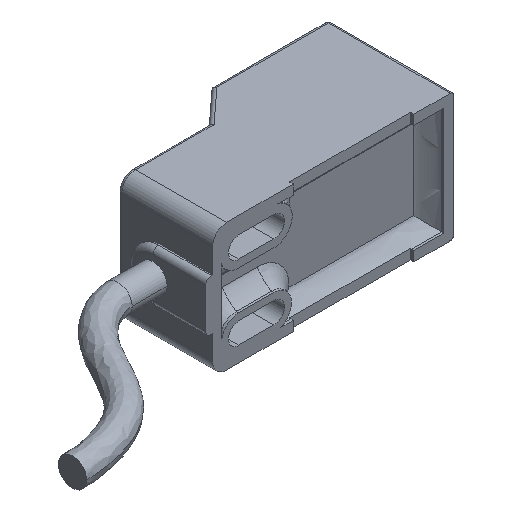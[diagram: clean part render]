
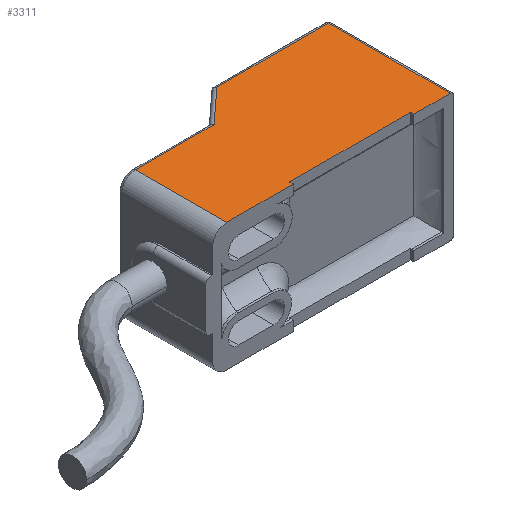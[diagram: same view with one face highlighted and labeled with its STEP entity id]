
A CAD part, isometric view. The second image highlights one B-rep face of the part: STEP entity #3311.
In plain terms, the highlighted planar face has unit normal (0, 0, 1).
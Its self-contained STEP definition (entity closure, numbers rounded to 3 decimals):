
#793=DIRECTION('',(0.,1.,0.));
#794=VECTOR('',#793,17.4);
#795=CARTESIAN_POINT('',(16.1,0.,9.125));
#796=LINE('',#795,#794);
#797=DIRECTION('',(1.,0.,0.));
#798=VECTOR('',#797,5.2);
#799=CARTESIAN_POINT('',(10.9,0.,9.125));
#800=LINE('',#799,#798);
#801=DIRECTION('',(0.,1.,0.));
#802=VECTOR('',#801,0.5);
#803=CARTESIAN_POINT('',(10.9,0.,9.125));
#804=LINE('',#803,#802);
#805=DIRECTION('',(1.,0.,0.));
#806=VECTOR('',#805,17.2);
#807=CARTESIAN_POINT('',(-6.3,0.5,9.125));
#808=LINE('',#807,#806);
#809=DIRECTION('',(0.,1.,0.));
#810=VECTOR('',#809,0.5);
#811=CARTESIAN_POINT('',(-6.3,0.,9.125));
#812=LINE('',#811,#810);
#813=DIRECTION('',(1.,0.,0.));
#814=VECTOR('',#813,9.5);
#815=CARTESIAN_POINT('',(-15.8,0.,9.125));
#816=LINE('',#815,#814);
#817=DIRECTION('',(0.,-1.,0.));
#818=VECTOR('',#817,13.);
#819=CARTESIAN_POINT('',(-15.8,13.,9.125));
#820=LINE('',#819,#818);
#821=DIRECTION('',(-1.,0.,0.));
#822=VECTOR('',#821,11.194);
#823=CARTESIAN_POINT('',(-4.606,13.,9.125));
#824=LINE('',#823,#822);
#825=DIRECTION('',(-0.737,-0.676,0.));
#826=VECTOR('',#825,6.512);
#827=CARTESIAN_POINT('',(0.194,17.4,9.125));
#828=LINE('',#827,#826);
#829=DIRECTION('',(-1.,0.,0.));
#830=VECTOR('',#829,15.906);
#831=CARTESIAN_POINT('',(16.1,17.4,9.125));
#832=LINE('',#831,#830);
#1968=CARTESIAN_POINT('',(-6.3,0.,9.125));
#1969=CARTESIAN_POINT('',(-6.3,0.5,9.125));
#1970=VERTEX_POINT('',#1968);
#1971=VERTEX_POINT('',#1969);
#1972=CARTESIAN_POINT('',(10.9,0.5,9.125));
#1973=VERTEX_POINT('',#1972);
#1974=CARTESIAN_POINT('',(10.9,0.,9.125));
#1975=VERTEX_POINT('',#1974);
#2097=CARTESIAN_POINT('',(16.1,0.,9.125));
#2099=VERTEX_POINT('',#2097);
#2100=CARTESIAN_POINT('',(16.1,17.4,9.125));
#2101=VERTEX_POINT('',#2100);
#2112=CARTESIAN_POINT('',(0.194,17.4,9.125));
#2113=VERTEX_POINT('',#2112);
#2116=CARTESIAN_POINT('',(-4.606,13.,9.125));
#2117=VERTEX_POINT('',#2116);
#2120=CARTESIAN_POINT('',(-15.8,13.,9.125));
#2121=VERTEX_POINT('',#2120);
#2122=CARTESIAN_POINT('',(-15.8,0.,9.125));
#2124=VERTEX_POINT('',#2122);
#3289=CARTESIAN_POINT('',(0.,0.,9.125));
#3290=DIRECTION('',(0.,0.,1.));
#3291=DIRECTION('',(1.,0.,0.));
#3292=AXIS2_PLACEMENT_3D('',#3289,#3290,#3291);
#3293=PLANE('',#3292);
#3295=ORIENTED_EDGE('',*,*,#3294,.F.);
#3296=ORIENTED_EDGE('',*,*,#2326,.F.);
#3297=ORIENTED_EDGE('',*,*,#3259,.T.);
#3298=ORIENTED_EDGE('',*,*,#2644,.F.);
#3299=ORIENTED_EDGE('',*,*,#2674,.F.);
#3300=ORIENTED_EDGE('',*,*,#2359,.F.);
#3302=ORIENTED_EDGE('',*,*,#3301,.F.);
#3304=ORIENTED_EDGE('',*,*,#3303,.F.);
#3306=ORIENTED_EDGE('',*,*,#3305,.F.);
#3308=ORIENTED_EDGE('',*,*,#3307,.F.);
#3309=EDGE_LOOP('',(#3295,#3296,#3297,#3298,#3299,#3300,#3302,#3304,#3306,
#3308));
#3310=FACE_OUTER_BOUND('',#3309,.F.);
#3311=ADVANCED_FACE('',(#3310),#3293,.T.);
#2326=EDGE_CURVE('',#1975,#2099,#800,.T.);
#2359=EDGE_CURVE('',#2124,#1970,#816,.T.);
#2644=EDGE_CURVE('',#1971,#1973,#808,.T.);
#2674=EDGE_CURVE('',#1970,#1971,#812,.T.);
#3259=EDGE_CURVE('',#1975,#1973,#804,.T.);
#3294=EDGE_CURVE('',#2099,#2101,#796,.T.);
#3301=EDGE_CURVE('',#2121,#2124,#820,.T.);
#3303=EDGE_CURVE('',#2117,#2121,#824,.T.);
#3305=EDGE_CURVE('',#2113,#2117,#828,.T.);
#3307=EDGE_CURVE('',#2101,#2113,#832,.T.);
